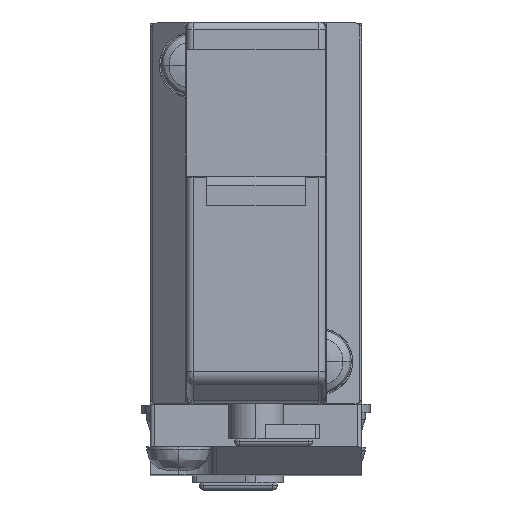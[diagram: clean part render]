
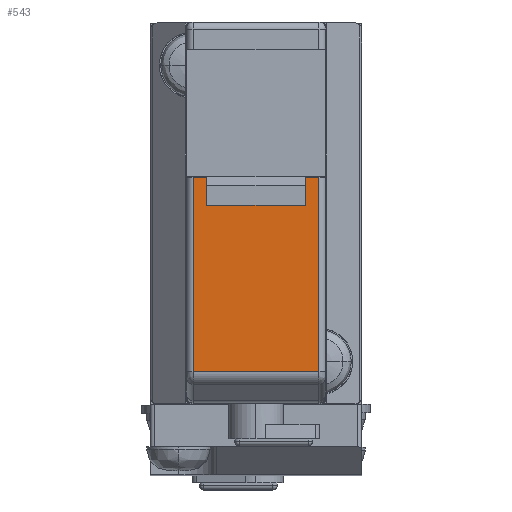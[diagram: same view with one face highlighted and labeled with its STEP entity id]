
A CAD part, top view. The second image highlights one B-rep face of the part: STEP entity #543.
In plain terms, the highlighted planar face has unit normal (0, 0, 1).
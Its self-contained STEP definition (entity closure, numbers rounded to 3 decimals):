
#543=ADVANCED_FACE('',(#3137),#3136,.F.);
#3136=PLANE('',#5860);
#3137=FACE_OUTER_BOUND('',#5861,.T.);
#5857=CARTESIAN_POINT('',(5.34,-26.283,27.4));
#5858=DIRECTION('',(0.,0.,-1.));
#5859=DIRECTION('',(-1.,0.,0.));
#5860=AXIS2_PLACEMENT_3D('',#5857,#5858,#5859);
#5861=EDGE_LOOP('',(#7775,#7776,#7777,#7778,#7779,#7780,#7781,#7782));
#7775=ORIENTED_EDGE('',*,*,#9021,.F.);
#7776=ORIENTED_EDGE('',*,*,#9028,.T.);
#7777=ORIENTED_EDGE('',*,*,#9029,.T.);
#7778=ORIENTED_EDGE('',*,*,#9030,.T.);
#7779=ORIENTED_EDGE('',*,*,#9013,.F.);
#7780=ORIENTED_EDGE('',*,*,#8949,.F.);
#7781=ORIENTED_EDGE('',*,*,#8958,.F.);
#7782=ORIENTED_EDGE('',*,*,#8951,.T.);
#8949=EDGE_CURVE('',#12970,#12955,#12977,.T.);
#8951=EDGE_CURVE('',#12991,#12984,#12992,.T.);
#8958=EDGE_CURVE('',#12991,#12970,#13037,.T.);
#9013=EDGE_CURVE('',#12955,#13407,#13408,.T.);
#9021=EDGE_CURVE('',#13454,#12984,#13461,.T.);
#9028=EDGE_CURVE('',#13454,#13507,#13508,.T.);
#9029=EDGE_CURVE('',#13507,#13514,#13515,.T.);
#9030=EDGE_CURVE('',#13514,#13407,#13521,.T.);
#12955=VERTEX_POINT('',#17529);
#12970=VERTEX_POINT('',#17538);
#12977=LINE('',#17542,#17543);
#12984=VERTEX_POINT('',#17546);
#12991=VERTEX_POINT('',#17550);
#12992=LINE('',#17551,#17552);
#13037=LINE('',#17575,#17576);
#13407=VERTEX_POINT('',#17784);
#13408=LINE('',#17785,#17786);
#13454=VERTEX_POINT('',#17811);
#13461=LINE('',#17816,#17817);
#13507=VERTEX_POINT('',#17841);
#13508=LINE('',#17842,#17843);
#13514=VERTEX_POINT('',#17845);
#13515=LINE('',#17846,#17847);
#13521=LINE('',#17849,#17850);
#17529=CARTESIAN_POINT('',(4.,-11.,27.4));
#17538=CARTESIAN_POINT('',(4.,-9.5,27.4));
#17542=CARTESIAN_POINT('',(4.,-9.5,27.4));
#17543=VECTOR('',#17544,1.5);
#17544=DIRECTION('',(0.,-1.,0.));
#17546=CARTESIAN_POINT('',(-4.,-11.,27.4));
#17550=CARTESIAN_POINT('',(-4.,-9.5,27.4));
#17551=CARTESIAN_POINT('',(-4.,-9.5,27.4));
#17552=VECTOR('',#17553,1.5);
#17553=DIRECTION('',(0.,-1.,0.));
#17575=CARTESIAN_POINT('',(-4.,-9.5,27.4));
#17576=VECTOR('',#17577,8.);
#17577=DIRECTION('',(1.,0.,0.));
#17784=CARTESIAN_POINT('',(4.45,-11.,27.4));
#17785=CARTESIAN_POINT('',(4.,-11.,27.4));
#17786=VECTOR('',#17787,0.45);
#17787=DIRECTION('',(1.,0.,0.));
#17811=CARTESIAN_POINT('',(-4.45,-11.,27.4));
#17816=CARTESIAN_POINT('',(-4.45,-11.,27.4));
#17817=VECTOR('',#17818,0.45);
#17818=DIRECTION('',(1.,0.,0.));
#17841=CARTESIAN_POINT('',(-4.45,-24.758,27.4));
#17842=CARTESIAN_POINT('',(-4.45,-11.,27.4));
#17843=VECTOR('',#17844,13.758);
#17844=DIRECTION('',(0.,-1.,0.));
#17845=CARTESIAN_POINT('',(4.45,-24.758,27.4));
#17846=CARTESIAN_POINT('',(-4.45,-24.758,27.4));
#17847=VECTOR('',#17848,8.9);
#17848=DIRECTION('',(1.,0.,0.));
#17849=CARTESIAN_POINT('',(4.45,-24.758,27.4));
#17850=VECTOR('',#17851,13.758);
#17851=DIRECTION('',(0.,1.,0.));
